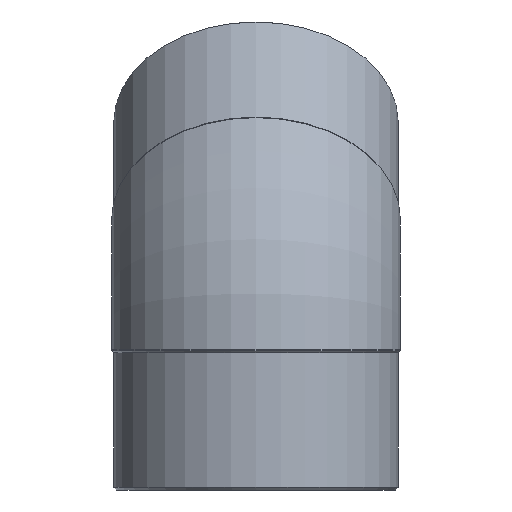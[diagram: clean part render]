
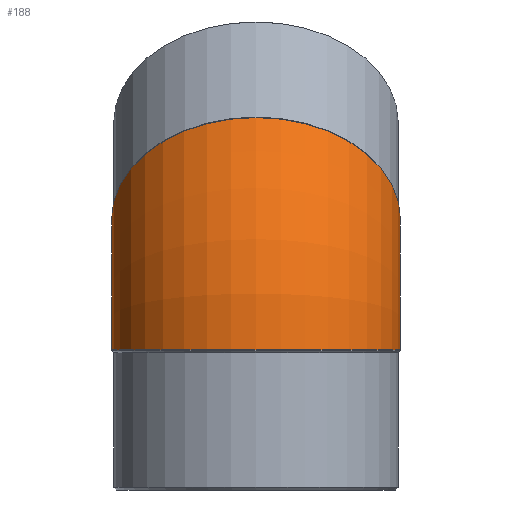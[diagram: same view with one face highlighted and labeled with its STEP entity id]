
A CAD part, left-side view. The second image highlights one B-rep face of the part: STEP entity #188.
In plain terms, the highlighted toroidal (fillet/blend) face has major radius 258.321 mm and minor radius 203 mm.
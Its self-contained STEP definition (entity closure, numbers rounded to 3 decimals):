
#20=TOROIDAL_SURFACE('',#225,258.321,203.);
#53=ORIENTED_EDGE('',*,*,#87,.T.);
#54=ORIENTED_EDGE('',*,*,#86,.F.);
#86=EDGE_CURVE('',#104,#104,#118,.F.);
#87=EDGE_CURVE('',#105,#105,#119,.F.);
#104=VERTEX_POINT('',#351);
#105=VERTEX_POINT('',#354);
#118=CIRCLE('',#224,203.);
#119=CIRCLE('',#226,203.);
#136=EDGE_LOOP('',(#53));
#137=EDGE_LOOP('',(#54));
#163=FACE_BOUND('',#136,.T.);
#164=FACE_BOUND('',#137,.T.);
#188=ADVANCED_FACE('',(#163,#164),#20,.T.);
#224=AXIS2_PLACEMENT_3D('',#350,#270,#271);
#225=AXIS2_PLACEMENT_3D('',#352,#272,#273);
#226=AXIS2_PLACEMENT_3D('',#353,#274,#275);
#270=DIRECTION('',(-0.707,0.,-0.707));
#271=DIRECTION('',(0.707,0.,-0.707));
#272=DIRECTION('',(0.,1.,0.));
#273=DIRECTION('',(0.,0.,1.));
#274=DIRECTION('',(0.,0.,-1.));
#275=DIRECTION('',(1.,0.,0.));
#350=CARTESIAN_POINT('',(75.66,0.,75.66));
#351=CARTESIAN_POINT('',(219.203,0.,-67.882));
#352=CARTESIAN_POINT('',(258.321,0.,-107.));
#353=CARTESIAN_POINT('',(0.,0.,-107.));
#354=CARTESIAN_POINT('',(203.,0.,-107.));
